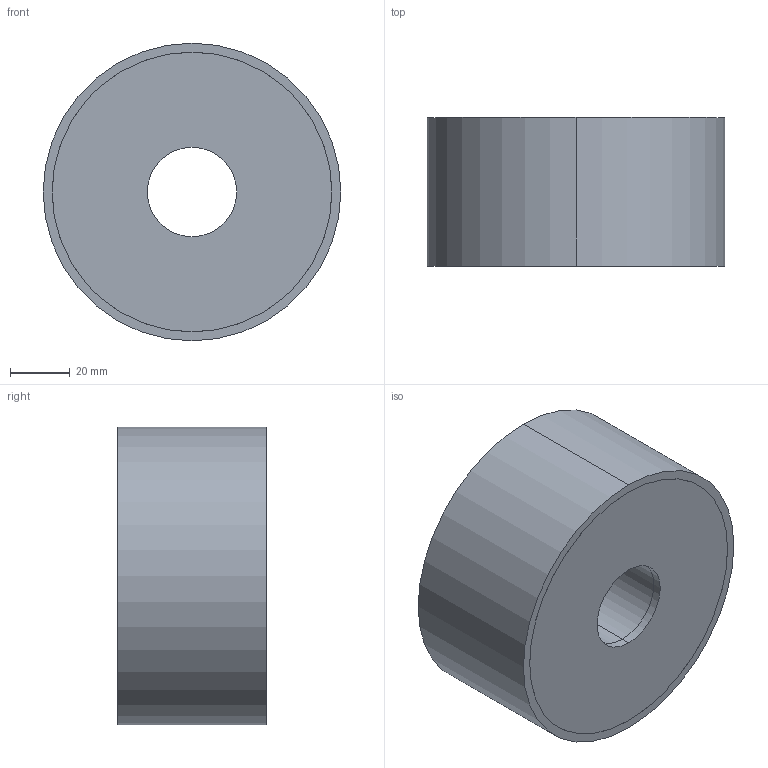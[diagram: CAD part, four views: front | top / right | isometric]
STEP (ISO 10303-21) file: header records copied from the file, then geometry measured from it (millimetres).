
FILE_DESCRIPTION (( 'STEP AP214' ), '1' );
FILE_NAME ('351-100-50-30-DD-55.step', '2025-07-23T10:13:55', ( '' ), ( '' ), 'SwSTEP 2.0', 'SolidWorks 2022', '' );
FILE_SCHEMA (( 'AUTOMOTIVE_DESIGN' ));
Length unit declared in the file: millimetre
Products named in the file (1): 351-100-50-30-DD-55
Bounding box: 100 x 50 x 100 mm (x, y, z)
Volume: 357356.1 mm3; surface area: 34730.2 mm2
Topology: 1 solids, 1 shells, 30 faces, 60 edges, 40 vertices
Faces by surface type: cylinder 20, plane 10
Entity records: 919 total; most frequent: DIRECTION 162, CARTESIAN_POINT 131, ORIENTED_EDGE 120, AXIS2_PLACEMENT_3D 71, EDGE_CURVE 60, EDGE_LOOP 40, CIRCLE 40, VERTEX_POINT 40
